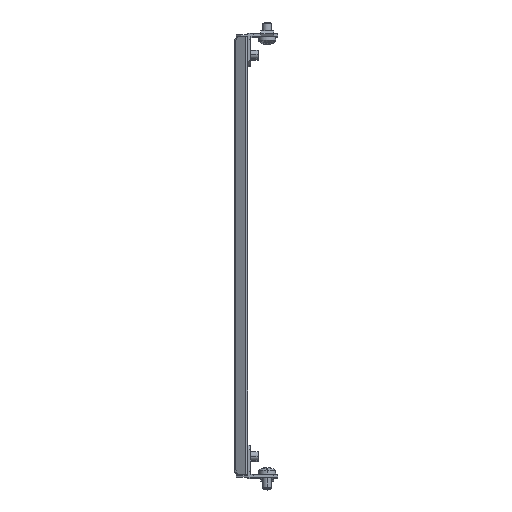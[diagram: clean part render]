
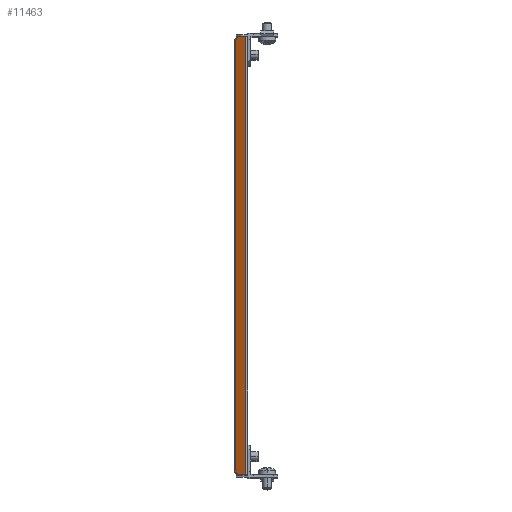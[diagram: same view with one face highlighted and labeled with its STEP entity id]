
A CAD part, top view. The second image highlights one B-rep face of the part: STEP entity #11463.
In plain terms, the highlighted planar face has unit normal (-0.5, 0, 0.866).
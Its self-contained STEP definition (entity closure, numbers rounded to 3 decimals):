
#633 = DIRECTION ( 'NONE',  ( 0., 1., 0. ) ) ;
#783 = CARTESIAN_POINT ( 'NONE',  ( -10.611, -152.112, 298.9 ) ) ;
#1023 = DIRECTION ( 'NONE',  ( -0.5, 0., 0.866 ) ) ;
#1961 = VECTOR ( 'NONE', #15964, 1000. ) ;
#1963 = EDGE_CURVE ( 'NONE', #1996, #7649, #9466, .T. ) ;
#1968 = CARTESIAN_POINT ( 'NONE',  ( -16.385, 151.888, 295.566 ) ) ;
#1996 = VERTEX_POINT ( 'NONE', #22489 ) ;
#2020 = VERTEX_POINT ( 'NONE', #24333 ) ;
#2089 = DIRECTION ( 'NONE',  ( 0.612, -0.707, 0.354 ) ) ;
#2279 = EDGE_CURVE ( 'NONE', #28960, #2020, #25184, .T. ) ;
#2341 = DIRECTION ( 'NONE',  ( 0.866, 0., 0.5 ) ) ;
#2378 = CARTESIAN_POINT ( 'NONE',  ( -140.574, -5.712, 223.866 ) ) ;
#2524 = ORIENTED_EDGE ( 'NONE', *, *, #12496, .F. ) ;
#2638 = CARTESIAN_POINT ( 'NONE',  ( -9.111, 151.888, 299.766 ) ) ;
#4003 = VECTOR ( 'NONE', #19873, 1000. ) ;
#4272 = VECTOR ( 'NONE', #18253, 1000. ) ;
#4463 = LINE ( 'NONE', #1968, #4800 ) ;
#4489 = ORIENTED_EDGE ( 'NONE', *, *, #2279, .T. ) ;
#4620 = CARTESIAN_POINT ( 'NONE',  ( -8.593, -0.112, 300.065 ) ) ;
#4800 = VECTOR ( 'NONE', #22437, 1000. ) ;
#7060 = CARTESIAN_POINT ( 'NONE',  ( -16.385, -149.112, 295.566 ) ) ;
#7649 = VERTEX_POINT ( 'NONE', #25211 ) ;
#8134 = AXIS2_PLACEMENT_3D ( 'NONE', #18286, #1023, #23258 ) ;
#8260 = ORIENTED_EDGE ( 'NONE', *, *, #13778, .F. ) ;
#8685 = LINE ( 'NONE', #2378, #18935 ) ;
#9298 = VECTOR ( 'NONE', #2341, 1000. ) ;
#9373 = FACE_OUTER_BOUND ( 'NONE', #9662, .T. ) ;
#9466 = LINE ( 'NONE', #11096, #4272 ) ;
#9662 = EDGE_LOOP ( 'NONE', ( #4489, #17550, #22271, #2524, #27209, #8260, #23921, #10138 ) ) ;
#10050 = EDGE_CURVE ( 'NONE', #28960, #18894, #15194, .T. ) ;
#10138 = ORIENTED_EDGE ( 'NONE', *, *, #10050, .F. ) ;
#10429 = EDGE_CURVE ( 'NONE', #25062, #18894, #8685, .T. ) ;
#10947 = CARTESIAN_POINT ( 'NONE',  ( -16.385, -152.112, 295.566 ) ) ;
#11096 = CARTESIAN_POINT ( 'NONE',  ( -140.574, 5.487, 223.866 ) ) ;
#11463 = ADVANCED_FACE ( 'NONE', ( #9373 ), #20617, .T. ) ;
#12468 = CARTESIAN_POINT ( 'NONE',  ( -8.593, 151.888, 300.065 ) ) ;
#12496 = EDGE_CURVE ( 'NONE', #1996, #26561, #22391, .T. ) ;
#13778 = EDGE_CURVE ( 'NONE', #25062, #7649, #4463, .T. ) ;
#14645 = CARTESIAN_POINT ( 'NONE',  ( -10.611, 151.888, 298.9 ) ) ;
#15194 = LINE ( 'NONE', #10947, #4003 ) ;
#15415 = VECTOR ( 'NONE', #18606, 1000. ) ;
#15512 = CARTESIAN_POINT ( 'NONE',  ( -13.787, -152.112, 297.066 ) ) ;
#15655 = CARTESIAN_POINT ( 'NONE',  ( -135.724, 151.888, 226.666 ) ) ;
#15964 = DIRECTION ( 'NONE',  ( 0.866, 0., 0.5 ) ) ;
#17550 = ORIENTED_EDGE ( 'NONE', *, *, #19237, .T. ) ;
#18253 = DIRECTION ( 'NONE',  ( -0.612, -0.707, -0.354 ) ) ;
#18286 = CARTESIAN_POINT ( 'NONE',  ( -135.724, -0.112, 226.666 ) ) ;
#18606 = DIRECTION ( 'NONE',  ( 0.866, 0., 0.5 ) ) ;
#18894 = VERTEX_POINT ( 'NONE', #15512 ) ;
#18935 = VECTOR ( 'NONE', #2089, 1000. ) ;
#19237 = EDGE_CURVE ( 'NONE', #2020, #23482, #22586, .T. ) ;
#19873 = DIRECTION ( 'NONE',  ( -0.866, 0., -0.5 ) ) ;
#20617 = PLANE ( 'NONE',  #8134 ) ;
#20791 = CARTESIAN_POINT ( 'NONE',  ( -10.611, -152.112, 298.9 ) ) ;
#22089 = LINE ( 'NONE', #15655, #9298 ) ;
#22271 = ORIENTED_EDGE ( 'NONE', *, *, #28359, .F. ) ;
#22391 = LINE ( 'NONE', #2638, #1961 ) ;
#22437 = DIRECTION ( 'NONE',  ( 0., 1., 0. ) ) ;
#22489 = CARTESIAN_POINT ( 'NONE',  ( -13.787, 151.888, 297.066 ) ) ;
#22586 = LINE ( 'NONE', #4620, #23554 ) ;
#23258 = DIRECTION ( 'NONE',  ( 0., 1., 0. ) ) ;
#23482 = VERTEX_POINT ( 'NONE', #12468 ) ;
#23554 = VECTOR ( 'NONE', #633, 1000. ) ;
#23921 = ORIENTED_EDGE ( 'NONE', *, *, #10429, .T. ) ;
#24333 = CARTESIAN_POINT ( 'NONE',  ( -8.593, -152.112, 300.065 ) ) ;
#25062 = VERTEX_POINT ( 'NONE', #7060 ) ;
#25184 = LINE ( 'NONE', #20791, #15415 ) ;
#25211 = CARTESIAN_POINT ( 'NONE',  ( -16.385, 148.888, 295.566 ) ) ;
#26561 = VERTEX_POINT ( 'NONE', #14645 ) ;
#27209 = ORIENTED_EDGE ( 'NONE', *, *, #1963, .T. ) ;
#28359 = EDGE_CURVE ( 'NONE', #26561, #23482, #22089, .T. ) ;
#28960 = VERTEX_POINT ( 'NONE', #783 ) ;
